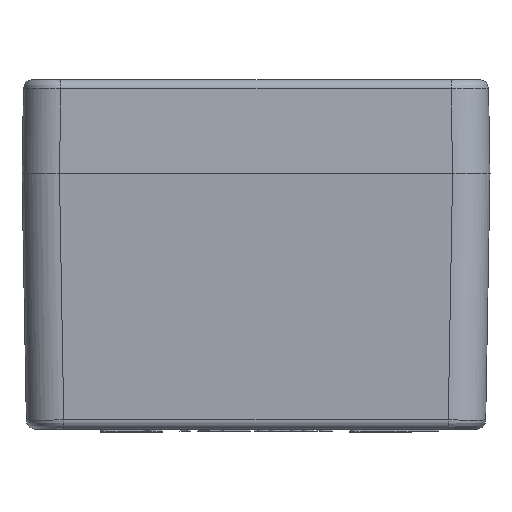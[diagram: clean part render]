
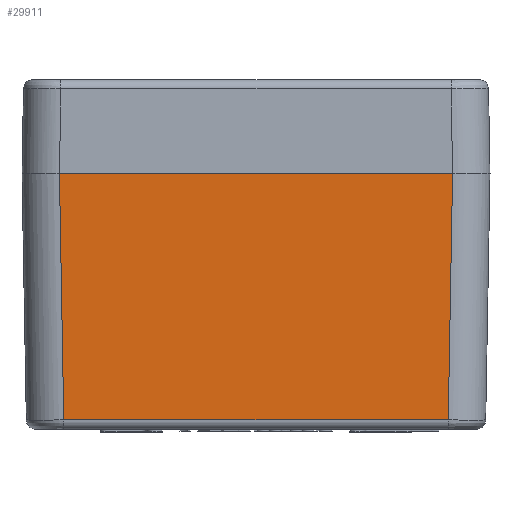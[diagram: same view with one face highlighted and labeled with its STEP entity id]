
A CAD part, left-side view. The second image highlights one B-rep face of the part: STEP entity #29911.
In plain terms, the highlighted planar face has unit normal (-1, 0, -0.018).
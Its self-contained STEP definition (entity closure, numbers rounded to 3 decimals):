
#549 = EDGE_LOOP ( 'NONE', ( #27039, #20334, #19784, #20189 ) ) ;
#680 = VERTEX_POINT ( 'NONE', #1128 ) ;
#1105 = EDGE_CURVE ( 'NONE', #3681, #4883, #5578, .T. ) ;
#1128 = CARTESIAN_POINT ( 'NONE',  ( -95., 31.501, 0. ) ) ;
#1404 = VECTOR ( 'NONE', #13128, 1000. ) ;
#2921 = CARTESIAN_POINT ( 'NONE',  ( -95., -31.501, 0. ) ) ;
#3681 = VERTEX_POINT ( 'NONE', #2921 ) ;
#4364 = CARTESIAN_POINT ( 'NONE',  ( -94.979, -31.48, -1.204 ) ) ;
#4883 = VERTEX_POINT ( 'NONE', #9105 ) ;
#5578 = LINE ( 'NONE', #4364, #11799 ) ;
#6826 = LINE ( 'NONE', #28313, #30664 ) ;
#7092 = FACE_OUTER_BOUND ( 'NONE', #549, .T. ) ;
#8024 = LINE ( 'NONE', #25499, #1404 ) ;
#8666 = EDGE_CURVE ( 'NONE', #3681, #680, #6826, .T. ) ;
#8938 = DIRECTION ( 'NONE',  ( 0.017, 0.017, -1. ) ) ;
#9105 = CARTESIAN_POINT ( 'NONE',  ( -94.31, -30.811, -39.526 ) ) ;
#11799 = VECTOR ( 'NONE', #8938, 1000. ) ;
#13128 = DIRECTION ( 'NONE',  ( 0., 1., 0. ) ) ;
#13420 = DIRECTION ( 'NONE',  ( 0., 1., 0. ) ) ;
#13545 = DIRECTION ( 'NONE',  ( -1., 0., -0.017 ) ) ;
#14284 = EDGE_CURVE ( 'NONE', #4883, #23297, #8024, .T. ) ;
#16049 = VECTOR ( 'NONE', #29214, 1000. ) ;
#19784 = ORIENTED_EDGE ( 'NONE', *, *, #30061, .T. ) ;
#20189 = ORIENTED_EDGE ( 'NONE', *, *, #14284, .F. ) ;
#20334 = ORIENTED_EDGE ( 'NONE', *, *, #8666, .T. ) ;
#21199 = DIRECTION ( 'NONE',  ( -0.017, 0., 1. ) ) ;
#23297 = VERTEX_POINT ( 'NONE', #28267 ) ;
#25499 = CARTESIAN_POINT ( 'NONE',  ( -94.31, 37.5, -39.526 ) ) ;
#26130 = CARTESIAN_POINT ( 'NONE',  ( -95., 37.5, 0. ) ) ;
#27039 = ORIENTED_EDGE ( 'NONE', *, *, #1105, .F. ) ;
#28219 = LINE ( 'NONE', #29431, #16049 ) ;
#28267 = CARTESIAN_POINT ( 'NONE',  ( -94.31, 30.811, -39.526 ) ) ;
#28313 = CARTESIAN_POINT ( 'NONE',  ( -95., 37.5, 0. ) ) ;
#28674 = PLANE ( 'NONE',  #29193 ) ;
#29193 = AXIS2_PLACEMENT_3D ( 'NONE', #26130, #13545, #21199 ) ;
#29214 = DIRECTION ( 'NONE',  ( 0.017, -0.017, -1. ) ) ;
#29431 = CARTESIAN_POINT ( 'NONE',  ( -95., 31.501, 0. ) ) ;
#29911 = ADVANCED_FACE ( 'NONE', ( #7092 ), #28674, .T. ) ;
#30061 = EDGE_CURVE ( 'NONE', #680, #23297, #28219, .T. ) ;
#30664 = VECTOR ( 'NONE', #13420, 1000. ) ;
